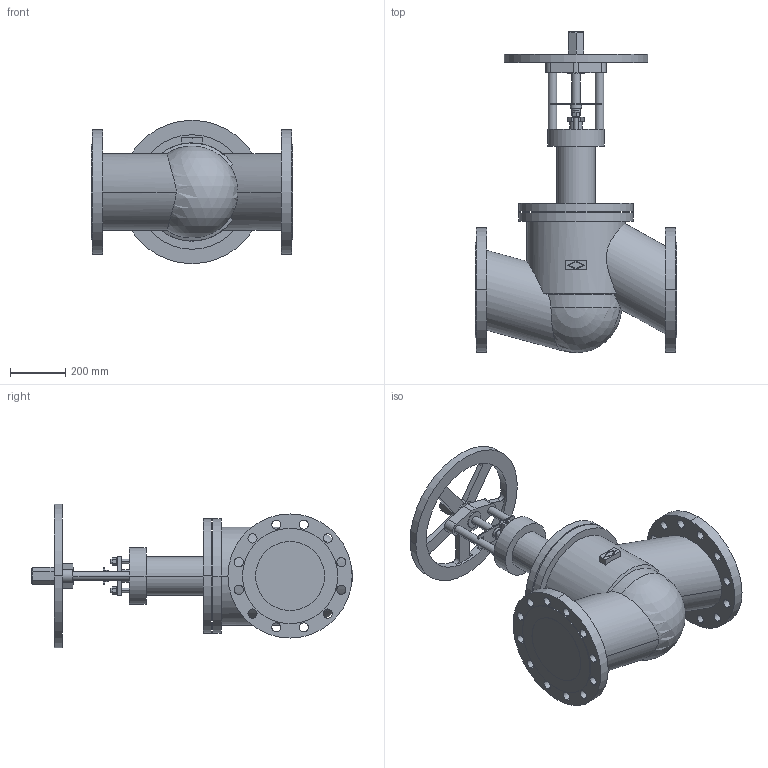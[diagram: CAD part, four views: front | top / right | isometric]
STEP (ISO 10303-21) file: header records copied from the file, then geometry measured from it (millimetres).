
FILE_DESCRIPTION(('Creo Elements/Direct Modeling STEP Export'),'2;1');
FILE_NAME('c000005010.stp','2012-09-19T12:00:30',(''),(''),'Creo Elements/Direct Modeling STEP processor for AP203 (Solid Model)','Creo Elements/Direct Modeling 17.0D 15-Jul-2011 (C) Parametric Technology GmbH','');
FILE_SCHEMA(('CONFIG_CONTROL_DESIGN'));
Length unit declared in the file: millimetre
Products named in the file (1): 1
Bounding box: 730 x 1164.99 x 520 mm (x, y, z)
Volume: 93107395.7 mm3; surface area: 2463340.4 mm2
Topology: 1 solids, 1 shells, 265 faces, 706 edges, 468 vertices
Faces by surface type: cylinder 144, plane 116, cone 4, sphere 1
Entity records: 8343 total; most frequent: CARTESIAN_POINT 1737, ORIENTED_EDGE 1408, DIRECTION 1288, EDGE_CURVE 704, VERTEX_POINT 468, AXIS2_PLACEMENT_3D 462, VECTOR 364, LINE 364
